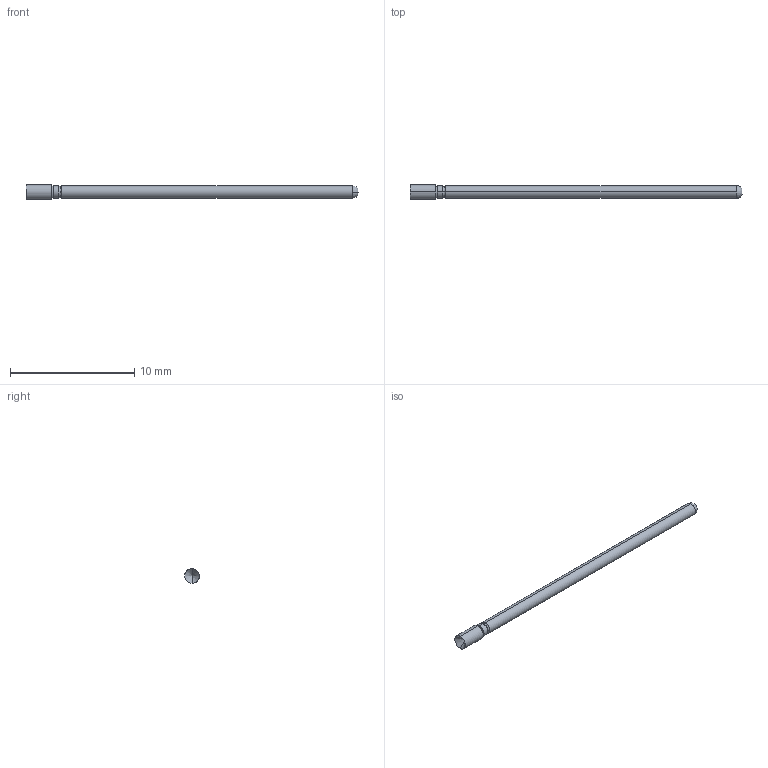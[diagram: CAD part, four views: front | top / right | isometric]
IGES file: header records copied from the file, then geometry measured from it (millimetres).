
Start section: SolidWorks IGES file using analytic representation for surfaces
Global section: file name: Z:\probe solid model mockups\Solidworks models\Parts\LFRE-1A FULL.IGS; native system: SolidWorks 2016; preprocessor: SolidWorks 2016; author: mlee; date: 180927.162327; units: inch
Bounding box: 26.67 x 1.19 x 1.19 mm (x, y, z)
Surface area: 88.4 mm2 (no closed solid volume)
Topology: 0 solids, 0 shells, 19 faces, 92 edges, 90 vertices
Faces by surface type: revolution 14, bspline 5
